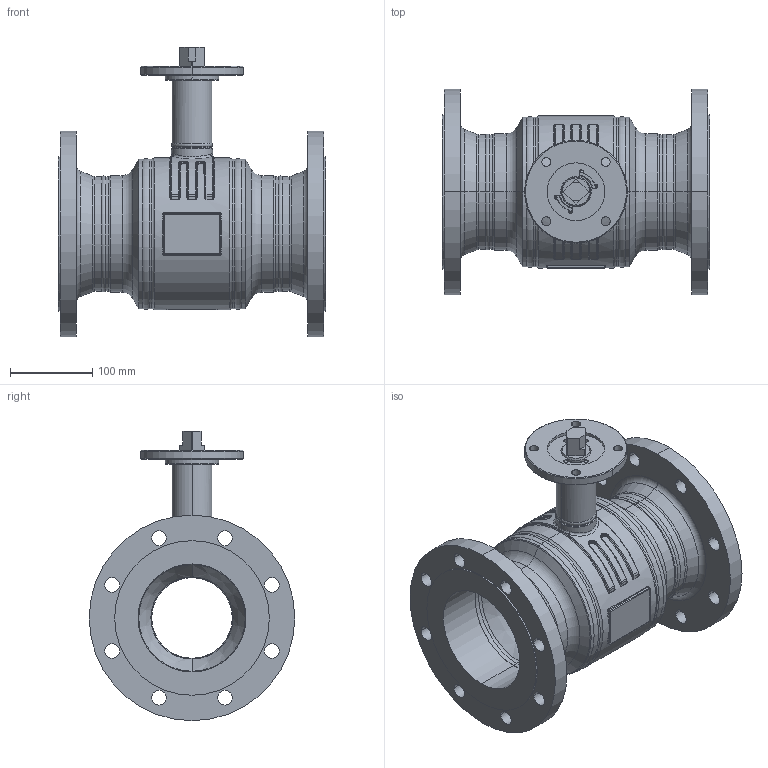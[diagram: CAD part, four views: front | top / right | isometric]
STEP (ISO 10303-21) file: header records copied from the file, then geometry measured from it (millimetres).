
FILE_DESCRIPTION((''),'2;1');
FILE_NAME('KHMO-F-R-H-125R100P01_SW0001','2025-04-23T09:01:36',('jeitlers'),('KLINGER'),'CREO PARAMETRIC BY PTC INC, 2023014','CREO PARAMETRIC BY PTC INC, 2023014','');
FILE_SCHEMA(('CONFIG_CONTROL_DESIGN'));
Length unit declared in the file: millimetre
Products named in the file (1): KHMO-F-R-H-125R100P01_SW0001
Bounding box: 325 x 250 x 352 mm (x, y, z)
Volume: 3771945.4 mm3; surface area: 791694.9 mm2
Topology: 2 solids, 3 shells, 617 faces, 1477 edges, 882 vertices
Faces by surface type: cylinder 238, torus 128, plane 111, cone 80, bspline 52, sphere 8
Entity records: 30184 total; most frequent: CARTESIAN_POINT 15679, DIRECTION 3239, ORIENTED_EDGE 2938, EDGE_CURVE 1469, AXIS2_PLACEMENT_3D 1379, VERTEX_POINT 882, CIRCLE 814, EDGE_LOOP 703
